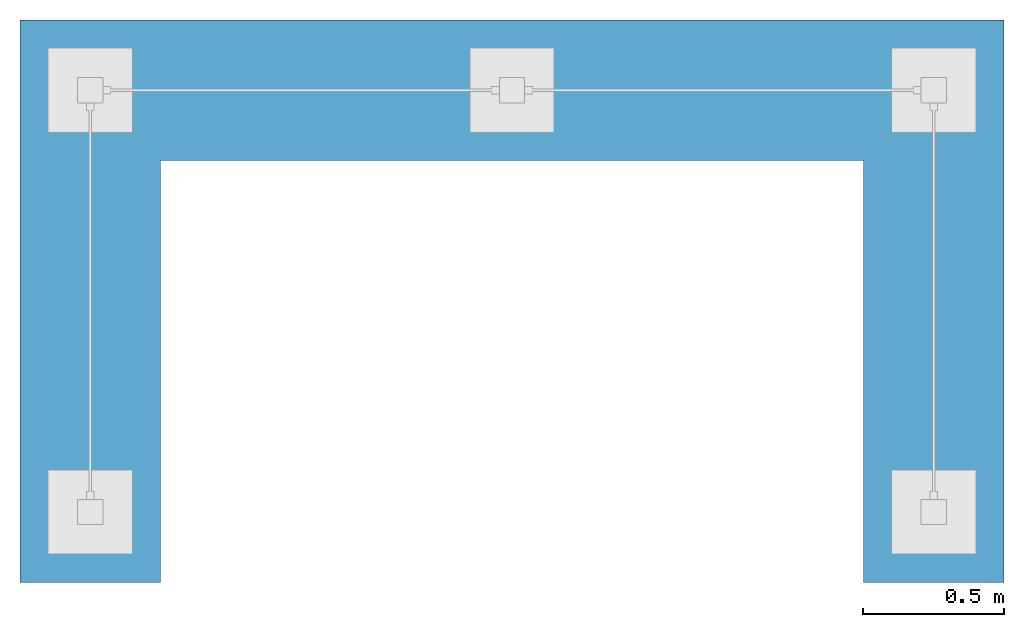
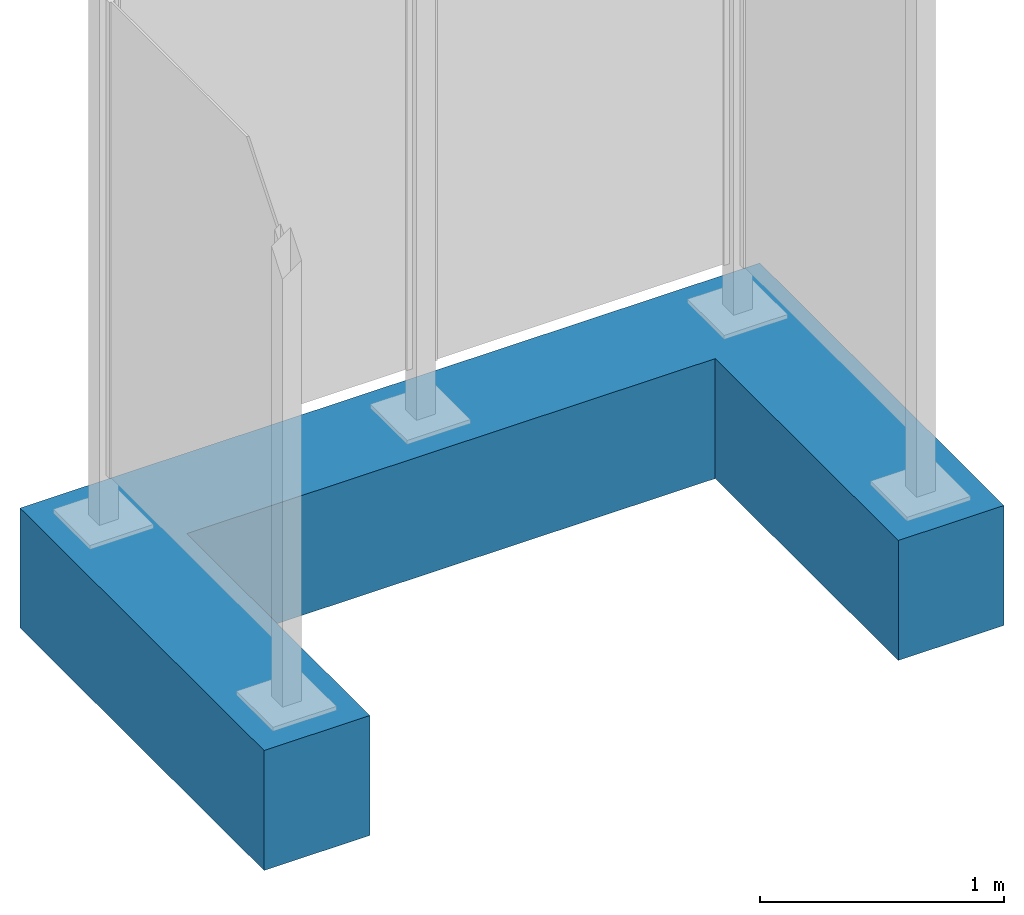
# One storey, part 1 of 2: 1 slab.
"""IFC4 building model written with IfcOpenShell, lengths in metres."""

from ifc_helpers import new_model, entity, si_unit, converted_unit, direction, frame, origin, place, context, subcontext, project, spatial, polyline, outline, extrude, material, type_object, element, save


model = new_model("IFC4")

# Units and contexts
model_context = context("Model", 3, precision=1e-05, world=origin(), true_north=direction((6.123031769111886e-17, 1.0)))
body_context = subcontext(model_context, "Body", "Model", "MODEL_VIEW")
ifc_project = project(units=[si_unit("LENGTHUNIT", "METRE"), converted_unit("PLANEANGLEUNIT", "DEGREE", entity("IfcPlaneAngleMeasure", 0.017453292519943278), si_unit("PLANEANGLEUNIT", "RADIAN"), dimensions=[0, 0, 0, 0, 0, 0, 0]), si_unit("AREAUNIT", "SQUARE_METRE")], contexts=[model_context])

# Site, building, storey
site_placement = place(None, origin())
site = spatial("IfcSite", under=ifc_project, at=site_placement, Name="Default", CompositionType="ELEMENT")
building_placement = place(site_placement, origin())
building = spatial("IfcBuilding", under=site, at=building_placement, CompositionType="ELEMENT")
storey_placement = place(building_placement, origin())
storey = spatial("IfcBuildingStorey", under=building, at=storey_placement, Name="DB_Bezugshoehe_max_Bahnsteigkante", CompositionType="ELEMENT", Elevation=0.0)

# Slab
ifc_material = material(Name="DB_Ortbeton", Category="DB_Beton")
slab_type = type_object("IfcSlabType", Name="DB_Windschutz_2-feldrig_U_Fundament:DB_Windschutz_2-feldrig_U_Fundament", PredefinedType="BASESLAB", material=ifc_material)
slab_placement = place(storey_placement, origin())
element("IfcSlab", 1, at=slab_placement, inside=storey, type_object=slab_type, Name="DB_Windschutz_2-feldrig_U_Fundament:DB_Windschutz_2-feldrig_U_Fundament", ObjectType="DB_Windschutz_2-feldrig_U_Fundament:DB_Windschutz_2-feldrig_U_Fundament", PredefinedType="BASESLAB", context=body_context, shape_type="SweptSolid", body=[
    extrude(outline(polyline([(-1.7500000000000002, -1.125), (1.7500000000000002, -1.125), (1.7499999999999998, 0.8749999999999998), (1.2500000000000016, 0.8749999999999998), (1.2500000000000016, -0.625), (-1.250000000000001, -0.625), (-1.250000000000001, 0.8749999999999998), (-1.7500000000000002, 0.8749999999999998), (-1.7500000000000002, -1.125)])), frame((1.500000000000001, 0.6249999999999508, 0.0), z_axis=(0.0, 0.0, 1.0), x_axis=(-1.0, 0.0, 0.0)), (0.0, 0.0, 1.0), 0.5999999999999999),
])

save(model, "model.ifc")
